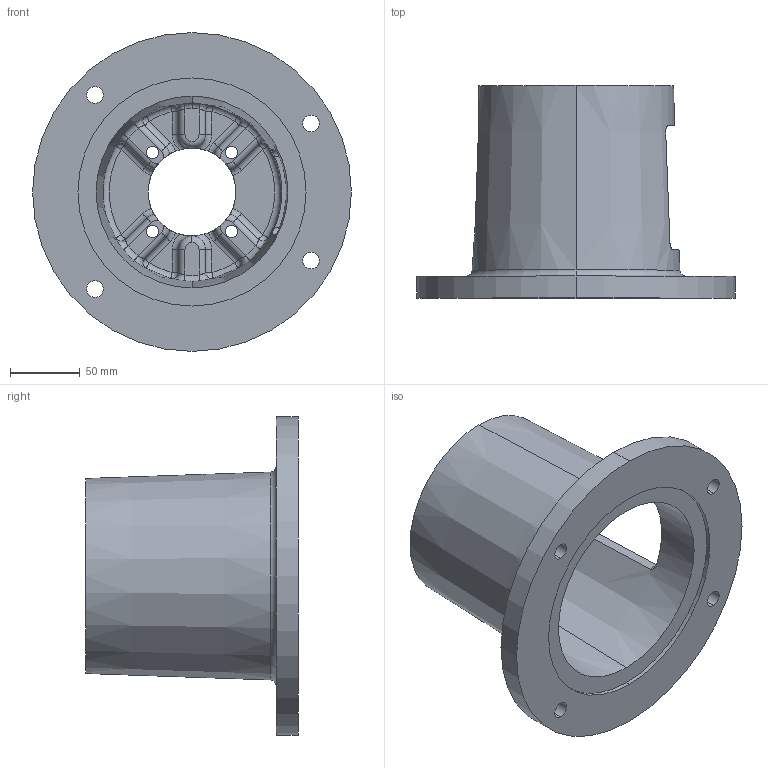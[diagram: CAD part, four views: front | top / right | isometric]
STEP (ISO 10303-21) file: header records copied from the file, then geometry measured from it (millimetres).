
FILE_DESCRIPTION (( 'STEP AP203' ), '1' );
FILE_NAME ('E6446063MS.STEP', '2014-11-03T18:04:36', ( '' ), ( '' ), 'SwSTEP 2.0', 'SolidWorks 2014', '' );
FILE_SCHEMA (( 'CONFIG_CONTROL_DESIGN' ));
Length unit declared in the file: inch
Products named in the file (1): E6446063MS
Bounding box: 228.6 x 152.4 x 228.6 mm (x, y, z)
Volume: 837073.2 mm3; surface area: 202510.4 mm2
Topology: 1 solids, 1 shells, 172 faces, 426 edges, 246 vertices
Faces by surface type: cylinder 61, torus 39, plane 32, bspline 24, sphere 12, cone 4
Entity records: 6978 total; most frequent: CARTESIAN_POINT 2945, DIRECTION 859, ORIENTED_EDGE 828, EDGE_CURVE 414, AXIS2_PLACEMENT_3D 378, VERTEX_POINT 246, CIRCLE 229, EDGE_LOOP 194
